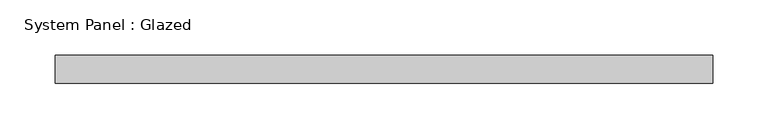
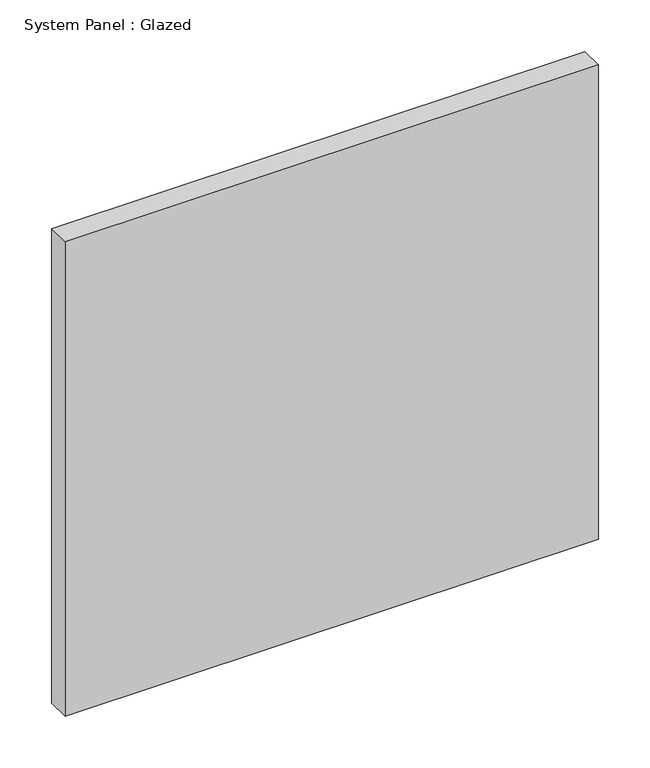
"""IFC4 building model written with IfcOpenShell, lengths in millimetres: plate geometry, System Panel : Glazed."""

from ifc_helpers import new_model, si_unit, origin, origin_with_axes, place, context, project, spatial, polyline, outline, extrude, source, transform, mapped, element, save


def system_panel_glazed_d94367f6(model_context):
    return source(origin(), model_context, "Body", "SweptSolid", [
        extrude(outline(polyline([(297.18, -12.7), (-297.18, -12.7), (-297.18, 12.7), (297.18, 12.7), (297.18, -12.7)])), origin_with_axes(), (0.0, 0.0, 1.0), 558.8),
    ])


if __name__ == "__main__":
    model = new_model("IFC4")
    model_context = context("Model", 3, world=origin())
    ifc_project = project(units=[si_unit("LENGTHUNIT", "METRE", prefix="MILLI")], contexts=[model_context])
    site = spatial("IfcSite", under=ifc_project)
    building = spatial("IfcBuilding", under=site)
    placement = place(None, origin())
    system_panel_glazed_shape = system_panel_glazed_d94367f6(model_context)
    element("IfcPlate", 1, ObjectType="System Panel : Glazed", at=placement, inside=building, context=model_context, shape_type="MappedRepresentation", body=[
        mapped(system_panel_glazed_shape, transform((0.0, 0.0, 0.0), x_axis=(1.0, 0.0, 0.0), y_axis=(0.0, 1.0, 0.0), z_axis=(0.0, 0.0, 1.0))),
    ])
    save(model, "model.ifc")
